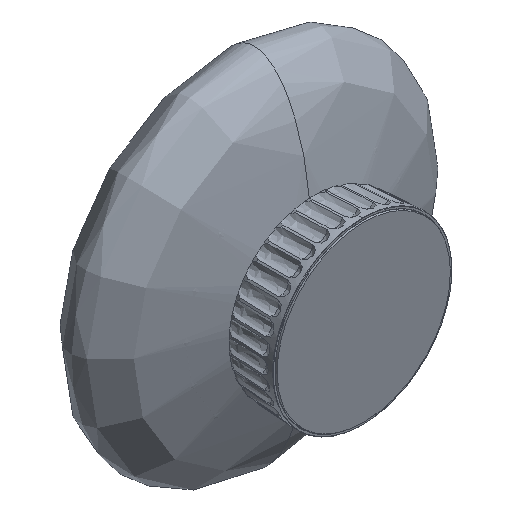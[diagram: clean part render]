
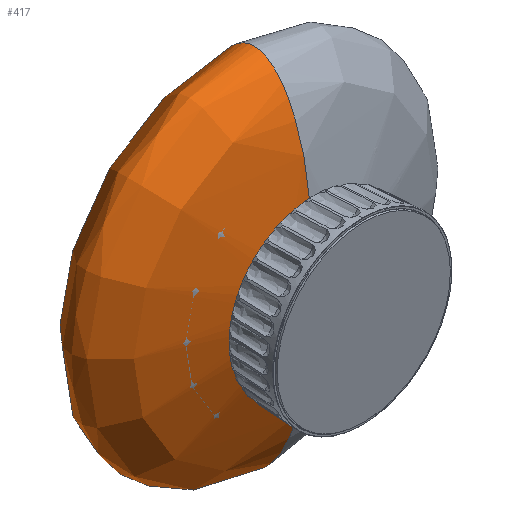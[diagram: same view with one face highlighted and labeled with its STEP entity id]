
A CAD part, isometric view. The second image highlights one B-rep face of the part: STEP entity #417.
In plain terms, the highlighted free-form (B-spline) face has degree [2, 2] with [5, 5] control points.
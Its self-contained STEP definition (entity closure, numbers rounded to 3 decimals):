
#166=(
BOUNDED_SURFACE()
B_SPLINE_SURFACE(2,2,((#11542,#11543,#11544,#11545,#11546),(#11547,#11548,
#11549,#11550,#11551),(#11552,#11553,#11554,#11555,#11556),(#11557,#11558,
#11559,#11560,#11561),(#11562,#11563,#11564,#11565,#11566)),
 .UNSPECIFIED.,.F.,.F.,.F.)
B_SPLINE_SURFACE_WITH_KNOTS((3,2,3),(3,2,3),(0.,234.117,468.235),
(668.178,1002.267,1336.356),.UNSPECIFIED.)
GEOMETRIC_REPRESENTATION_ITEM()
RATIONAL_B_SPLINE_SURFACE(((1.,0.707,1.,0.707,1.),
(0.756,0.535,0.756,0.535,
0.756),(1.,0.707,1.,0.707,1.),(0.756,
0.535,0.756,0.535,0.756),
(1.,0.707,1.,0.707,1.)))
REPRESENTATION_ITEM('')
SURFACE()
);
#417=ADVANCED_FACE('',(#634),#166,.T.);
#634=FACE_OUTER_BOUND('',#866,.T.);
#866=EDGE_LOOP('',(#2009,#2010,#2011));
#2009=ORIENTED_EDGE('',*,*,#2635,.T.);
#2010=ORIENTED_EDGE('',*,*,#2621,.F.);
#2011=ORIENTED_EDGE('',*,*,#2636,.F.);
#2621=EDGE_CURVE('',#3608,#3611,#3218,.T.);
#2635=EDGE_CURVE('',#3621,#3611,#3226,.T.);
#2636=EDGE_CURVE('',#3621,#3608,#2944,.T.);
#2944=B_SPLINE_CURVE_WITH_KNOTS('',3,(#12420,#12421,#12422,#12423,#12424,
#12425,#12426,#12427,#12428,#12429,#12430,#12431,#12432,#12433),
 .UNSPECIFIED.,.F.,.F.,(4,1,1,1,1,1,1,1,1,1,1,4),(138.132,144.711,
157.866,171.022,184.177,197.333,203.91,
210.488,223.644,236.799,256.532,276.266),
 .UNSPECIFIED.);
#3218=(
BOUNDED_CURVE()
B_SPLINE_CURVE(2,(#12296,#12297,#12298,#12299,#12300),.UNSPECIFIED.,.F.,
 .F.)
B_SPLINE_CURVE_WITH_KNOTS((3,2,3),(1.106,197.032,468.235),
 .UNSPECIFIED.)
CURVE()
GEOMETRIC_REPRESENTATION_ITEM()
RATIONAL_B_SPLINE_CURVE((1.,0.803,1.,0.707,1.))
REPRESENTATION_ITEM('')
);
#3226=(
BOUNDED_CURVE()
B_SPLINE_CURVE(2,(#12415,#12416,#12417,#12418,#12419),.UNSPECIFIED.,.F.,
 .F.)
B_SPLINE_CURVE_WITH_KNOTS((3,2,3),(1.105,234.117,468.235),
 .UNSPECIFIED.)
CURVE()
GEOMETRIC_REPRESENTATION_ITEM()
RATIONAL_B_SPLINE_CURVE((1.,0.758,1.,0.756,1.))
REPRESENTATION_ITEM('')
);
#3608=VERTEX_POINT('',#12247);
#3611=VERTEX_POINT('',#12250);
#3621=VERTEX_POINT('',#12260);
#11542=CARTESIAN_POINT('',(0.,-33.516,-192.5));
#11543=CARTESIAN_POINT('',(-42.5,-33.516,-192.5));
#11544=CARTESIAN_POINT('',(-42.5,-33.516,-150.));
#11545=CARTESIAN_POINT('',(-42.5,-33.516,-107.5));
#11546=CARTESIAN_POINT('',(0.,-33.516,-107.5));
#11547=CARTESIAN_POINT('',(0.,-47.008,-317.044));
#11548=CARTESIAN_POINT('',(-167.044,-47.008,-317.044));
#11549=CARTESIAN_POINT('',(-167.044,-47.008,-150.));
#11550=CARTESIAN_POINT('',(-167.044,-47.008,17.044));
#11551=CARTESIAN_POINT('',(0.,-47.008,17.044));
#11552=CARTESIAN_POINT('',(0.,-94.135,-298.455));
#11553=CARTESIAN_POINT('',(-148.455,-94.135,-298.455));
#11554=CARTESIAN_POINT('',(-148.455,-94.135,-150.));
#11555=CARTESIAN_POINT('',(-148.455,-94.135,-1.545));
#11556=CARTESIAN_POINT('',(0.,-94.135,-1.545));
#11557=CARTESIAN_POINT('',(0.,-141.262,-279.866));
#11558=CARTESIAN_POINT('',(-129.866,-141.262,-279.866));
#11559=CARTESIAN_POINT('',(-129.866,-141.262,-150.));
#11560=CARTESIAN_POINT('',(-129.866,-141.262,-20.134));
#11561=CARTESIAN_POINT('',(0.,-141.262,-20.134));
#11562=CARTESIAN_POINT('',(0.,-141.262,-150.));
#11563=CARTESIAN_POINT('',(0.,-141.262,-150.));
#11564=CARTESIAN_POINT('',(0.,-141.262,-150.));
#11565=CARTESIAN_POINT('',(0.,-141.262,-150.));
#11566=CARTESIAN_POINT('',(0.,-141.262,-150.));
#12247=CARTESIAN_POINT('',(0.,-33.613,-106.61));
#12250=CARTESIAN_POINT('',(0.,-141.262,-150.));
#12260=CARTESIAN_POINT('',(0.,-33.613,-193.389));
#12296=CARTESIAN_POINT('',(0.,-33.613,-106.61));
#12297=CARTESIAN_POINT('',(0.,-45.426,0.));
#12298=CARTESIAN_POINT('',(0.,-86.262,0.));
#12299=CARTESIAN_POINT('',(0.,-141.262,0.));
#12300=CARTESIAN_POINT('',(0.,-141.262,-150.));
#12415=CARTESIAN_POINT('',(0.,-33.613,-193.389));
#12416=CARTESIAN_POINT('',(0.,-47.302,-316.929));
#12417=CARTESIAN_POINT('',(0.,-94.135,-298.455));
#12418=CARTESIAN_POINT('',(0.,-141.262,-279.866));
#12419=CARTESIAN_POINT('',(0.,-141.262,-150.));
#12420=CARTESIAN_POINT('',(0.,-33.613,-193.389));
#12421=CARTESIAN_POINT('',(-2.164,-33.613,-193.389));
#12422=CARTESIAN_POINT('',(-8.655,-33.613,-192.905));
#12423=CARTESIAN_POINT('',(-19.11,-33.613,-189.682));
#12424=CARTESIAN_POINT('',(-29.957,-33.613,-182.285));
#12425=CARTESIAN_POINT('',(-38.142,-33.613,-172.021));
#12426=CARTESIAN_POINT('',(-42.139,-33.613,-161.836));
#12427=CARTESIAN_POINT('',(-43.43,-33.613,-153.254));
#12428=CARTESIAN_POINT('',(-43.433,-33.613,-144.574));
#12429=CARTESIAN_POINT('',(-40.996,-33.613,-133.91));
#12430=CARTESIAN_POINT('',(-33.344,-33.613,-120.641));
#12431=CARTESIAN_POINT('',(-19.471,-33.613,-109.568));
#12432=CARTESIAN_POINT('',(-6.491,-33.613,-106.61));
#12433=CARTESIAN_POINT('',(0.,-33.613,-106.61));
